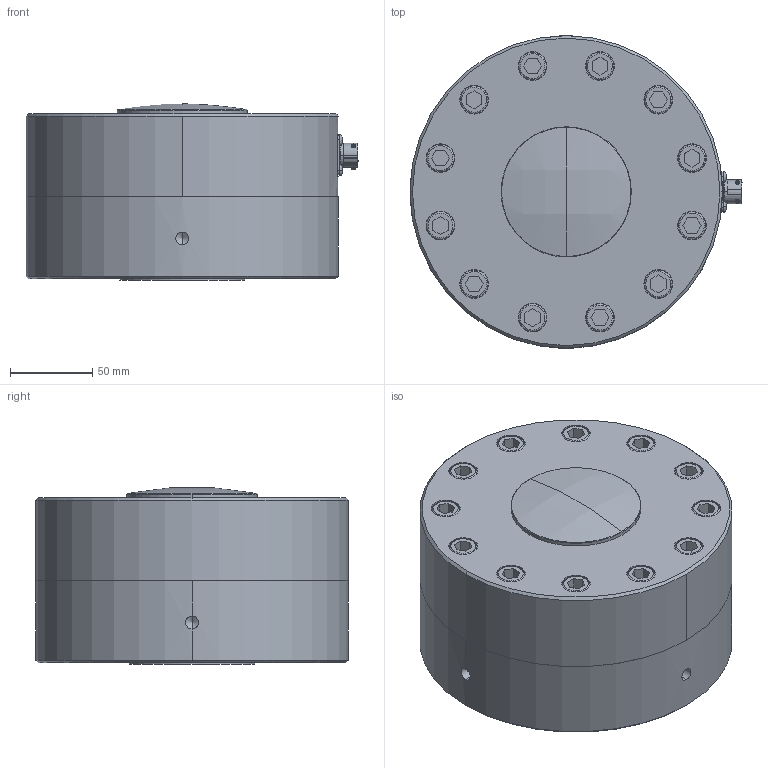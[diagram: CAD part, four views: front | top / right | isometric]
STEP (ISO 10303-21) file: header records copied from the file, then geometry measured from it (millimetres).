
FILE_DESCRIPTION (( 'STEP AP203' ), '1' );
FILE_NAME ('Interface 1231-450KN-B.STEP', '2011-06-06T22:21:37', ( ' ' ), ( '' ), 'SwSTEP 2.0', 'SolidWorks 2002349', '' );
FILE_SCHEMA (( 'CONFIG_CONTROL_DESIGN' ));
Length unit declared in the file: inch
Products named in the file (1): Interface 1231-450KN-B
Bounding box: 202.36 x 190.45 x 107.52 mm (x, y, z)
Volume: 2860948.5 mm3; surface area: 140189.2 mm2
Topology: 1 solids, 1 shells, 386 faces, 920 edges, 596 vertices
Faces by surface type: plane 184, cylinder 124, bspline 51, cone 27
Entity records: 12549 total; most frequent: CARTESIAN_POINT 3807, ORIENTED_EDGE 1824, DIRECTION 1754, EDGE_CURVE 912, AXIS2_PLACEMENT_3D 647, VERTEX_POINT 596, LINE 460, VECTOR 460
